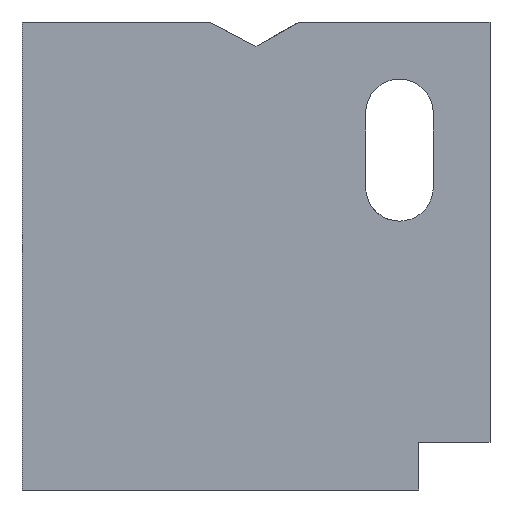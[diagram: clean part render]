
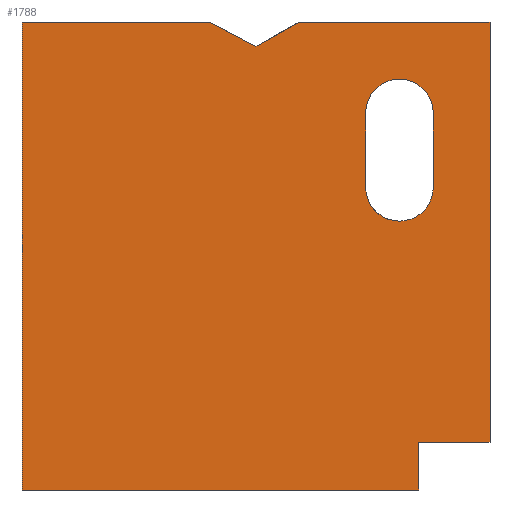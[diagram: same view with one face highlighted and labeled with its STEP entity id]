
A CAD part, left-side view. The second image highlights one B-rep face of the part: STEP entity #1788.
In plain terms, the highlighted planar face has unit normal (-1, 0, 0).
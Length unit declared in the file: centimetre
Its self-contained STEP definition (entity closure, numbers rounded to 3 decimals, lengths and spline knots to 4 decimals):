
#1 = EDGE_CURVE ( 'NONE', #1195, #581, #1171, .T. ) ;
#19 = VERTEX_POINT ( 'NONE', #712 ) ;
#36 = EDGE_CURVE ( 'NONE', #1567, #117, #1302, .T. ) ;
#41 = CARTESIAN_POINT ( 'NONE',  ( 0., 600.2132, 1000. ) ) ;
#53 = VECTOR ( 'NONE', #1518, 100. ) ;
#57 = CARTESIAN_POINT ( 'NONE',  ( 0., 1000., 0. ) ) ;
#85 = DIRECTION ( 'NONE',  ( 1., 0., 0. ) ) ;
#116 = VECTOR ( 'NONE', #352, 100. ) ;
#117 = VERTEX_POINT ( 'NONE', #1880 ) ;
#160 = LINE ( 'NONE', #1627, #944 ) ;
#187 = DIRECTION ( 'NONE',  ( 0., 0., 1. ) ) ;
#240 = DIRECTION ( 'NONE',  ( 0., -0.887, -0.461 ) ) ;
#248 = CARTESIAN_POINT ( 'NONE',  ( 0., 1000., 1000. ) ) ;
#264 = VECTOR ( 'NONE', #1604, 100. ) ;
#267 = CIRCLE ( 'NONE', #1164, 72.2462 ) ;
#279 = CARTESIAN_POINT ( 'NONE',  ( 0., 1000., 1000. ) ) ;
#288 = LINE ( 'NONE', #279, #543 ) ;
#294 = CARTESIAN_POINT ( 'NONE',  ( 0., 0., 1000. ) ) ;
#319 = LINE ( 'NONE', #775, #1074 ) ;
#329 = CARTESIAN_POINT ( 'NONE',  ( 0., 193.5386, 805.7532 ) ) ;
#352 = DIRECTION ( 'NONE',  ( 0., 0., -1. ) ) ;
#376 = EDGE_CURVE ( 'NONE', #117, #1846, #528, .T. ) ;
#381 = CIRCLE ( 'NONE', #1701, 72.2462 ) ;
#397 = FACE_BOUND ( 'NONE', #446, .T. ) ;
#408 = ORIENTED_EDGE ( 'NONE', *, *, #777, .F. ) ;
#410 = EDGE_LOOP ( 'NONE', ( #1620, #1867, #476, #1697, #622, #1714, #1159, #1130, #864 ) ) ;
#417 = VECTOR ( 'NONE', #1023, 100. ) ;
#428 = DIRECTION ( 'NONE',  ( -1., 0., 0. ) ) ;
#446 = EDGE_LOOP ( 'NONE', ( #1120, #468, #1172, #1590, #408 ) ) ;
#468 = ORIENTED_EDGE ( 'NONE', *, *, #1112, .F. ) ;
#469 = EDGE_CURVE ( 'NONE', #1195, #19, #288, .T. ) ;
#476 = ORIENTED_EDGE ( 'NONE', *, *, #1354, .F. ) ;
#487 = AXIS2_PLACEMENT_3D ( 'NONE', #1110, #85, #969 ) ;
#497 = DIRECTION ( 'NONE',  ( -1., 0., 0. ) ) ;
#512 = VECTOR ( 'NONE', #240, 100. ) ;
#522 = FACE_OUTER_BOUND ( 'NONE', #410, .T. ) ;
#528 = LINE ( 'NONE', #670, #1071 ) ;
#530 = VERTEX_POINT ( 'NONE', #649 ) ;
#543 = VECTOR ( 'NONE', #1754, 100. ) ;
#571 = EDGE_CURVE ( 'NONE', #1628, #888, #319, .T. ) ;
#581 = VERTEX_POINT ( 'NONE', #41 ) ;
#622 = ORIENTED_EDGE ( 'NONE', *, *, #376, .F. ) ;
#646 = DIRECTION ( 'NONE',  ( 0., 0., -1. ) ) ;
#649 = CARTESIAN_POINT ( 'NONE',  ( 0., 193.5386, 877.9994 ) ) ;
#659 = LINE ( 'NONE', #1246, #1227 ) ;
#670 = CARTESIAN_POINT ( 'NONE',  ( 0., 1000., 1000. ) ) ;
#712 = CARTESIAN_POINT ( 'NONE',  ( 0., 1000., 0. ) ) ;
#720 = CARTESIAN_POINT ( 'NONE',  ( 0., 265.7848, 646.7858 ) ) ;
#775 = CARTESIAN_POINT ( 'NONE',  ( 0., 265.7848, 805.7532 ) ) ;
#776 = CARTESIAN_POINT ( 'NONE',  ( 0., 265.7848, 805.7532 ) ) ;
#777 = EDGE_CURVE ( 'NONE', #883, #530, #381, .T. ) ;
#816 = EDGE_CURVE ( 'NONE', #581, #1567, #1881, .T. ) ;
#823 = DIRECTION ( 'NONE',  ( 0., -1., 0. ) ) ;
#864 = ORIENTED_EDGE ( 'NONE', *, *, #469, .T. ) ;
#875 = CARTESIAN_POINT ( 'NONE',  ( 0., 121.2924, 805.7532 ) ) ;
#883 = VERTEX_POINT ( 'NONE', #875 ) ;
#888 = VERTEX_POINT ( 'NONE', #720 ) ;
#928 = CARTESIAN_POINT ( 'NONE',  ( 0., 0., 101.6722 ) ) ;
#944 = VECTOR ( 'NONE', #1193, 100. ) ;
#969 = DIRECTION ( 'NONE',  ( 0., 0., -1. ) ) ;
#1023 = DIRECTION ( 'NONE',  ( 0., 0., 1. ) ) ;
#1024 = CARTESIAN_POINT ( 'NONE',  ( 0., 1000., 1000. ) ) ;
#1033 = CARTESIAN_POINT ( 'NONE',  ( 0., 152.0321, 101.6722 ) ) ;
#1036 = EDGE_CURVE ( 'NONE', #1876, #1693, #659, .T. ) ;
#1045 = CIRCLE ( 'NONE', #1162, 72.2462 ) ;
#1071 = VECTOR ( 'NONE', #823, 100. ) ;
#1074 = VECTOR ( 'NONE', #1363, 100. ) ;
#1080 = LINE ( 'NONE', #1656, #116 ) ;
#1086 = EDGE_CURVE ( 'NONE', #19, #1693, #1386, .T. ) ;
#1090 = DIRECTION ( 'NONE',  ( 0., 0., 1. ) ) ;
#1100 = CARTESIAN_POINT ( 'NONE',  ( 0., 500., 947.8749 ) ) ;
#1110 = CARTESIAN_POINT ( 'NONE',  ( 0., 1000., 1000. ) ) ;
#1112 = EDGE_CURVE ( 'NONE', #888, #1281, #1045, .T. ) ;
#1120 = ORIENTED_EDGE ( 'NONE', *, *, #1877, .F. ) ;
#1130 = ORIENTED_EDGE ( 'NONE', *, *, #1, .F. ) ;
#1149 = CARTESIAN_POINT ( 'NONE',  ( 0., 407.8021, 1000. ) ) ;
#1159 = ORIENTED_EDGE ( 'NONE', *, *, #816, .F. ) ;
#1162 = AXIS2_PLACEMENT_3D ( 'NONE', #1807, #497, #1090 ) ;
#1164 = AXIS2_PLACEMENT_3D ( 'NONE', #329, #1508, #187 ) ;
#1165 = VECTOR ( 'NONE', #1448, 100. ) ;
#1171 = LINE ( 'NONE', #1024, #1165 ) ;
#1172 = ORIENTED_EDGE ( 'NONE', *, *, #571, .F. ) ;
#1193 = DIRECTION ( 'NONE',  ( 0., 1., 0. ) ) ;
#1195 = VERTEX_POINT ( 'NONE', #248 ) ;
#1227 = VECTOR ( 'NONE', #646, 100. ) ;
#1246 = CARTESIAN_POINT ( 'NONE',  ( 0., 152.0321, 0. ) ) ;
#1272 = PLANE ( 'NONE',  #487 ) ;
#1281 = VERTEX_POINT ( 'NONE', #1562 ) ;
#1302 = LINE ( 'NONE', #1149, #264 ) ;
#1343 = CARTESIAN_POINT ( 'NONE',  ( 0., 121.2924, 646.7858 ) ) ;
#1354 = EDGE_CURVE ( 'NONE', #1404, #1876, #160, .T. ) ;
#1363 = DIRECTION ( 'NONE',  ( 0., 0., -1. ) ) ;
#1386 = LINE ( 'NONE', #57, #53 ) ;
#1404 = VERTEX_POINT ( 'NONE', #928 ) ;
#1446 = CARTESIAN_POINT ( 'NONE',  ( 0., 193.5386, 805.7532 ) ) ;
#1448 = DIRECTION ( 'NONE',  ( 0., -1., 0. ) ) ;
#1496 = EDGE_CURVE ( 'NONE', #1846, #1404, #1080, .T. ) ;
#1508 = DIRECTION ( 'NONE',  ( -1., 0., 0. ) ) ;
#1518 = DIRECTION ( 'NONE',  ( 0., -1., 0. ) ) ;
#1562 = CARTESIAN_POINT ( 'NONE',  ( 0., 121.2924, 646.7858 ) ) ;
#1567 = VERTEX_POINT ( 'NONE', #1100 ) ;
#1590 = ORIENTED_EDGE ( 'NONE', *, *, #1617, .F. ) ;
#1602 = CARTESIAN_POINT ( 'NONE',  ( 0., 500., 947.8749 ) ) ;
#1604 = DIRECTION ( 'NONE',  ( 0., -0.871, 0.492 ) ) ;
#1617 = EDGE_CURVE ( 'NONE', #530, #1628, #267, .T. ) ;
#1620 = ORIENTED_EDGE ( 'NONE', *, *, #1086, .T. ) ;
#1627 = CARTESIAN_POINT ( 'NONE',  ( 0., 0., 101.6722 ) ) ;
#1628 = VERTEX_POINT ( 'NONE', #776 ) ;
#1656 = CARTESIAN_POINT ( 'NONE',  ( 0., 0., 1000. ) ) ;
#1693 = VERTEX_POINT ( 'NONE', #1827 ) ;
#1697 = ORIENTED_EDGE ( 'NONE', *, *, #1496, .F. ) ;
#1701 = AXIS2_PLACEMENT_3D ( 'NONE', #1446, #428, #1713 ) ;
#1713 = DIRECTION ( 'NONE',  ( 0., 0., 1. ) ) ;
#1714 = ORIENTED_EDGE ( 'NONE', *, *, #36, .F. ) ;
#1751 = LINE ( 'NONE', #1343, #417 ) ;
#1754 = DIRECTION ( 'NONE',  ( 0., 0., -1. ) ) ;
#1788 = ADVANCED_FACE ( 'NONE', ( #397, #522 ), #1272, .F. ) ;
#1807 = CARTESIAN_POINT ( 'NONE',  ( 0., 193.5386, 646.7858 ) ) ;
#1827 = CARTESIAN_POINT ( 'NONE',  ( 0., 152.0321, 0. ) ) ;
#1846 = VERTEX_POINT ( 'NONE', #294 ) ;
#1867 = ORIENTED_EDGE ( 'NONE', *, *, #1036, .F. ) ;
#1876 = VERTEX_POINT ( 'NONE', #1033 ) ;
#1877 = EDGE_CURVE ( 'NONE', #1281, #883, #1751, .T. ) ;
#1880 = CARTESIAN_POINT ( 'NONE',  ( 0., 407.8021, 1000. ) ) ;
#1881 = LINE ( 'NONE', #1602, #512 ) ;
